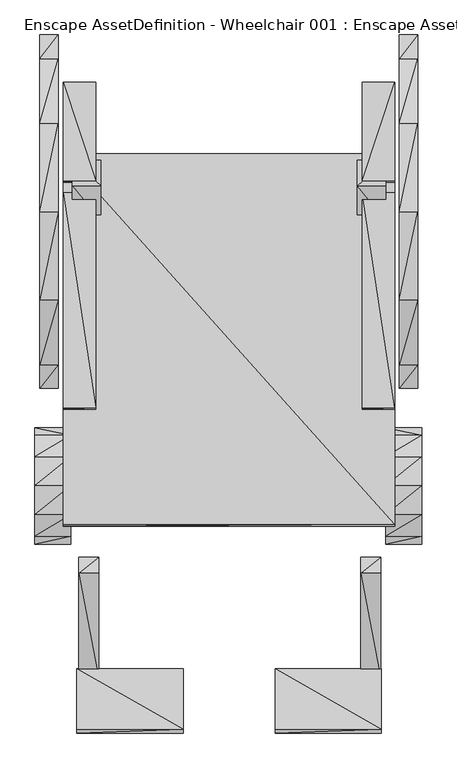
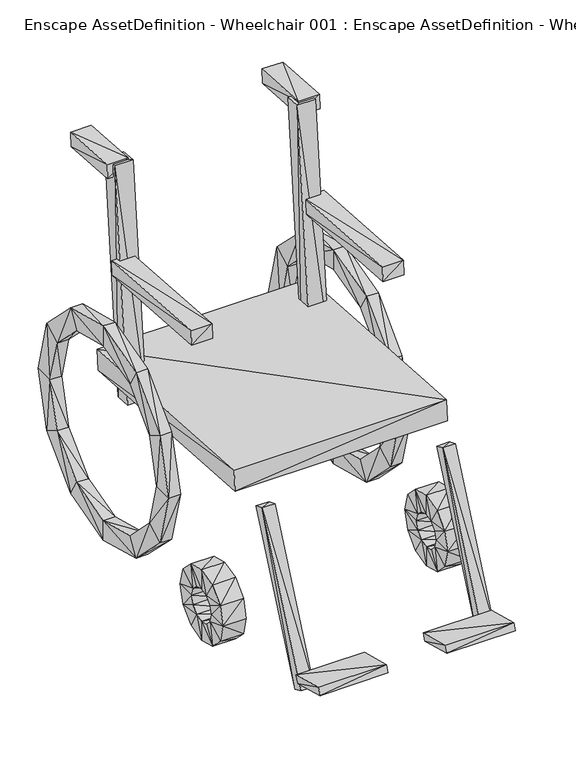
"""IFC4 building model written with IfcOpenShell, lengths in millimetres: geographic element geometry, Enscape AssetDefinition - Wheelchair 001 : Enscape AssetDefinition - Wheelchair 001."""

from ifc_helpers import new_model, si_unit, origin, place, context, project, spatial, faceted_brep, source, transform, mapped, element, save


def enscape_assetdefinition_wheelchair_001_enscape_12e7553c(model_context):
    return source(origin(), model_context, "Body", "Brep", [
        faceted_brep([(264.4009888, 292.7539945, 905.6119919), (264.4009888, 450.1889944, 894.8299885), (264.4009888, 295.2480018, 942.0239925), (212.5210017, 450.1889944, 894.8299885), (212.5210017, 452.6819885, 931.2430024), (264.4009888, 452.6819885, 931.2430024), (212.5210017, 292.7539945, 905.6119919), (212.5210017, 295.2480018, 942.0239925)], [[[0, 1, 2]], [[3, 4, 1]], [[1, 0, 3]], [[2, 1, 5]], [[1, 4, 5]], [[0, 2, 6]], [[5, 7, 2]], [[6, 2, 7]], [[3, 0, 6]], [[4, 3, 7]], [[7, 3, 6]], [[4, 7, 5]]]),
        faceted_brep([(-212.5210017, 292.7539945, 905.6119919), (-212.5210017, 295.2480018, 942.0239925), (-264.4009888, 292.7539945, 905.6119919), (-264.4009888, 295.2480018, 942.0239925), (-264.4009888, 452.6819885, 931.2430024), (-212.5210017, 452.6819885, 931.2430024), (-212.5210017, 450.1889944, 894.8299885), (-264.4009888, 450.1889944, 894.8299885)], [[[0, 1, 2]], [[3, 1, 4]], [[5, 1, 6]], [[2, 1, 3]], [[4, 1, 5]], [[6, 1, 0]], [[2, 3, 7]], [[0, 2, 6]], [[6, 2, 7]], [[7, 3, 4]], [[7, 4, 6]], [[6, 4, 5]]]),
        faceted_brep([(-272.6869881, 245.8550036, 560.3010058), (-272.6869881, 386.8780136, 522.5139856), (-302.1300137, 245.8550036, 560.3010058), (-272.6869881, 490.1149869, 419.2770123), (-302.1300137, 386.8780136, 522.5139856), (-272.6869881, 361.1710072, 477.9869914), (-272.6869881, 445.5879927, 393.5700059), (-272.6869881, 527.9020071, 278.2540023), (-302.1300137, 490.1149869, 419.2770123), (-272.6869881, 476.4870107, 278.2540023), (-302.1300137, 445.5879927, 393.5700059), (-302.1300137, 361.1710072, 477.9869914), (-302.1300137, 476.4870107, 278.2540023), (-272.6869881, 445.5879927, 162.9389971), (-272.6869881, 490.1149869, 137.2310072), (-302.1300137, 527.9020071, 278.2540023), (-272.6869881, 386.8780136, 33.9949988), (-302.1300137, 490.1149869, 137.2310072), (-302.1300137, 445.5879927, 162.9389971), (-272.6869881, 361.1710072, 78.5219967), (-272.6869881, 245.8550036, -3.792), (-302.1300137, 386.8780136, 33.9949988), (-272.6869881, 245.8550036, 47.623001), (-302.1300137, 245.8550036, 508.8859797), (-272.6869881, 245.8550036, 508.8859797), (-302.1300137, 130.539, 477.9869914), (-302.1300137, 104.832001, 522.5139856), (-272.6869881, 130.539, 477.9869914), (-302.1300137, 46.1219996, 393.5700059), (-272.6869881, 104.832001, 522.5139856), (-302.1300137, 1.596, 419.2779958), (-272.6869881, 46.1219996, 393.5700059), (-302.1300137, 15.2240004, 278.2540023), (-272.6869881, 1.596, 419.2779958), (-302.1300137, -36.1910015, 278.2540023), (-272.6869881, 15.2240004, 278.2540023), (-302.1300137, 46.1219996, 162.9379988), (-272.6869881, -36.1910015, 278.2540023), (-302.1300137, 1.596, 137.2310072), (-272.6869881, 46.1219996, 162.9379988), (-302.1300137, 130.5399984, 78.5209984), (-302.1300137, 104.832001, 33.9949988), (-272.6869881, 1.596, 137.2310072), (-272.6869881, 104.832001, 33.9949988), (-302.1300137, 245.8550036, -3.792), (-302.1300137, 245.8550036, 47.623001), (-272.6869881, 130.5399984, 78.5209984), (-302.1300137, 361.1710072, 78.5219967)], [[[0, 1, 2]], [[1, 3, 4]], [[1, 0, 5]], [[3, 1, 6]], [[2, 1, 4]], [[6, 1, 5]], [[3, 7, 8]], [[7, 3, 9]], [[4, 3, 8]], [[9, 3, 6]], [[6, 10, 9]], [[5, 11, 6]], [[6, 11, 10]], [[9, 12, 13]], [[13, 14, 9]], [[9, 10, 12]], [[9, 14, 7]], [[7, 14, 15]], [[8, 7, 15]], [[14, 16, 17]], [[15, 14, 17]], [[13, 16, 14]], [[13, 18, 19]], [[19, 16, 13]], [[13, 12, 18]], [[16, 20, 21]], [[20, 16, 22]], [[17, 16, 21]], [[22, 16, 19]], [[15, 17, 12]], [[17, 21, 18]], [[12, 17, 18]], [[12, 8, 15]], [[10, 8, 12]], [[10, 4, 8]], [[11, 4, 10]], [[2, 4, 23]], [[23, 4, 11]], [[5, 23, 11]], [[24, 23, 5]], [[24, 25, 23]], [[25, 2, 23]], [[26, 2, 25]], [[26, 0, 2]], [[27, 25, 24]], [[28, 26, 25]], [[27, 28, 25]], [[24, 0, 27]], [[5, 0, 24]], [[29, 0, 26]], [[27, 0, 29]], [[30, 26, 28]], [[30, 29, 26]], [[31, 28, 27]], [[31, 32, 28]], [[32, 30, 28]], [[29, 33, 27]], [[27, 33, 31]], [[33, 29, 30]], [[34, 30, 32]], [[34, 33, 30]], [[35, 32, 31]], [[36, 34, 32]], [[35, 36, 32]], [[31, 33, 35]], [[37, 33, 34]], [[35, 33, 37]], [[38, 34, 36]], [[38, 37, 34]], [[39, 36, 35]], [[40, 41, 36]], [[39, 40, 36]], [[36, 41, 38]], [[37, 42, 35]], [[35, 42, 39]], [[42, 37, 38]], [[41, 42, 38]], [[43, 42, 41]], [[44, 41, 45]], [[44, 43, 41]], [[45, 41, 40]], [[46, 40, 39]], [[46, 45, 40]], [[42, 43, 39]], [[39, 43, 46]], [[20, 43, 44]], [[46, 43, 22]], [[22, 43, 20]], [[21, 44, 47]], [[21, 20, 44]], [[47, 44, 45]], [[22, 45, 46]], [[22, 47, 45]], [[19, 47, 22]], [[18, 21, 47]], [[19, 18, 47]]]),
        faceted_brep([(264.4009888, 334.6050084, 376.4509857), (264.4009888, 338.2590115, 429.8210144), (264.4009888, -256.6919923, 416.9430137), (264.4009888, -253.0370057, 470.3119993), (-264.4009888, 338.2590115, 429.8210144), (-264.4009888, -256.6919923, 416.9430137), (-264.4009888, 334.6050084, 376.4509857), (-264.4009888, -253.0370057, 470.3119993)], [[[0, 1, 2]], [[2, 1, 3]], [[0, 4, 1]], [[4, 3, 1]], [[2, 3, 5]], [[2, 5, 0]], [[6, 4, 0]], [[0, 5, 6]], [[7, 3, 4]], [[6, 7, 4]], [[5, 3, 7]], [[5, 7, 6]]]),
        faceted_brep([(-250.4250109, 231.2439978, 342.7650034), (-204.509005, 231.2439978, 342.7650034), (-250.4250109, 287.4619961, 938.372016), (-204.509005, 271.2379992, 340.0259912), (-250.4250109, 271.2379992, 340.0259912), (-204.509005, 287.4619961, 938.372016), (-250.4250109, 327.4570107, 935.6330037), (-204.509005, 327.4570107, 935.6330037)], [[[0, 1, 2]], [[3, 1, 4]], [[2, 1, 5]], [[4, 1, 0]], [[3, 5, 1]], [[6, 4, 2]], [[5, 6, 2]], [[2, 4, 0]], [[3, 4, 7]], [[7, 4, 6]], [[7, 5, 3]], [[7, 6, 5]]]),
        faceted_brep([(250.4250109, 327.4570107, 935.6330037), (250.4250109, 271.2379992, 340.0259912), (204.509005, 327.4570107, 935.6330037), (204.509005, 271.2379992, 340.0259912), (204.509005, 231.2439978, 342.7650034), (250.4250109, 231.2439978, 342.7650034), (250.4250109, 287.4619961, 938.372016), (204.509005, 287.4619961, 938.372016)], [[[0, 1, 2]], [[3, 1, 4]], [[5, 1, 6]], [[2, 1, 3]], [[4, 1, 5]], [[6, 1, 0]], [[2, 7, 0]], [[3, 7, 2]], [[0, 7, 6]], [[7, 5, 6]], [[4, 5, 7]], [[4, 7, 3]]]),
        faceted_brep([(-252.4810135, -145.4450041, 174.5049953), (-252.4810135, -111.4019975, 140.4619962), (-309.9949956, -145.4450041, 174.5049953), (-252.4810135, -98.9419967, 93.9579979), (-309.9949956, -98.9419967, 93.9579979), (-252.4810135, -154.8939943, 115.3519973), (-309.9949956, -111.4019975, 140.4619962), (-252.4810135, -111.4019975, 47.4539995), (-252.4810135, -149.1609961, 93.9579979), (-252.4810135, -154.8939943, 72.5639984), (-252.4810135, -145.4450041, 13.4110004), (-309.9949956, -111.4019975, 47.4539995), (-252.4810135, -170.5549955, 56.9030009), (-309.9949956, -149.1609961, 93.9579979), (-309.9949956, -154.8939943, 72.5639984), (-309.9949956, -154.8939943, 115.3519973), (-309.9949956, -170.5549955, 56.9030009), (-309.9949956, -145.4450041, 13.4110004), (-252.4810135, -191.948995, 51.1699989), (-309.9949956, -191.948995, 0.95), (-309.9949956, -191.948995, 51.1699989), (-252.4810135, -191.948995, 0.95), (-252.4810135, -238.4530008, 13.4110004), (-309.9949956, -238.4530008, 13.4110004), (-252.4810135, -213.3429945, 56.9030009), (-309.9949956, -213.3429945, 56.9030009), (-309.9949956, -272.4960148, 47.4539995), (-309.9949956, -229.0039957, 72.5639984), (-252.4810135, -229.0039957, 72.5639984), (-252.4810135, -234.7369939, 93.9579979), (-309.9949956, -234.7369939, 93.9579979), (-252.4810135, -284.9569917, 93.9579979), (-252.4810135, -272.4960148, 47.4539995), (-309.9949956, -284.9569917, 93.9579979), (-252.4810135, -272.4960148, 140.4619962), (-252.4810135, -229.0039957, 115.3519973), (-252.4810135, -238.4530008, 174.5049953), (-309.9949956, -272.4960148, 140.4619962), (-252.4810135, -213.3429945, 131.013006), (-309.9949956, -229.0039957, 115.3519973), (-309.9949956, -213.3429945, 131.013006), (-309.9949956, -238.4530008, 174.5049953), (-252.4810135, -191.948995, 186.9650036), (-309.9949956, -191.948995, 186.9650036), (-252.4810135, -191.948995, 136.7460042), (-309.9949956, -191.948995, 136.7460042), (-252.4810135, -170.5549955, 131.013006), (-309.9949956, -170.5549955, 131.013006)], [[[0, 1, 2]], [[3, 4, 1]], [[1, 0, 5]], [[2, 1, 6]], [[1, 4, 6]], [[5, 3, 1]], [[3, 7, 4]], [[8, 3, 5]], [[7, 3, 9]], [[9, 3, 8]], [[7, 10, 11]], [[10, 7, 12]], [[4, 7, 11]], [[12, 7, 9]], [[8, 13, 9]], [[9, 14, 12]], [[9, 13, 14]], [[5, 15, 8]], [[8, 15, 13]], [[4, 11, 13]], [[15, 4, 13]], [[13, 11, 14]], [[14, 11, 16]], [[11, 10, 17]], [[16, 11, 17]], [[12, 14, 16]], [[12, 16, 18]], [[18, 10, 12]], [[17, 19, 16]], [[16, 19, 20]], [[18, 16, 20]], [[10, 21, 17]], [[17, 21, 19]], [[21, 22, 19]], [[19, 23, 20]], [[19, 22, 23]], [[18, 20, 24]], [[24, 20, 25]], [[20, 23, 25]], [[23, 22, 26]], [[25, 23, 27]], [[27, 23, 26]], [[24, 25, 28]], [[28, 25, 27]], [[24, 22, 18]], [[28, 22, 24]], [[29, 28, 30]], [[29, 31, 28]], [[32, 22, 28]], [[30, 28, 27]], [[28, 31, 32]], [[26, 33, 27]], [[27, 33, 30]], [[26, 32, 33]], [[26, 22, 32]], [[33, 32, 31]], [[31, 34, 33]], [[29, 34, 31]], [[29, 30, 35]], [[35, 34, 29]], [[34, 36, 37]], [[36, 34, 38]], [[38, 34, 35]], [[33, 34, 37]], [[33, 37, 30]], [[39, 37, 40]], [[37, 36, 41]], [[40, 37, 41]], [[30, 37, 39]], [[36, 42, 41]], [[38, 42, 36]], [[41, 43, 40]], [[41, 42, 43]], [[42, 0, 43]], [[44, 42, 38]], [[44, 0, 42]], [[43, 2, 45]], [[43, 0, 2]], [[40, 43, 45]], [[46, 0, 44]], [[5, 0, 46]], [[38, 40, 44]], [[44, 45, 46]], [[44, 40, 45]], [[46, 45, 47]], [[45, 2, 47]], [[47, 2, 15]], [[15, 2, 6]], [[46, 47, 5]], [[5, 47, 15]], [[6, 4, 15]], [[38, 39, 40]], [[35, 39, 38]], [[35, 30, 39]], [[18, 22, 21]], [[21, 10, 18]]]),
        faceted_brep([(307.5189888, -145.4450041, 174.5049953), (307.5189888, -111.4019975, 140.4619962), (250.0050068, -145.4450041, 174.5049953), (307.5189888, -98.9419967, 93.9579979), (250.0050068, -98.9419967, 93.9579979), (307.5189888, -154.8939943, 115.3519973), (250.0050068, -111.4019975, 140.4619962), (307.5189888, -111.4019975, 47.4539995), (307.5189888, -149.1609961, 93.9579979), (307.5189888, -154.8939943, 72.5639984), (307.5189888, -145.4450041, 13.4110004), (250.0050068, -111.4019975, 47.4539995), (307.5189888, -170.5549955, 56.9030009), (250.0050068, -149.1609961, 93.9579979), (250.0050068, -154.8939943, 72.5639984), (250.0050068, -154.8939943, 115.3519973), (250.0050068, -170.5549955, 56.9030009), (250.0050068, -145.4450041, 13.4110004), (250.0050068, -191.948995, 0.95), (307.5189888, -191.948995, 51.1699989), (250.0050068, -191.948995, 51.1699989), (307.5189888, -191.948995, 0.95), (307.5189888, -213.3429945, 56.9030009), (307.5189888, -238.4530008, 13.4110004), (250.0050068, -238.4530008, 13.4110004), (250.0050068, -213.3429945, 56.9030009), (307.5189888, -229.0039957, 72.5639984), (250.0050068, -229.0039957, 72.5639984), (250.0050068, -272.4960148, 47.4539995), (250.0050068, -284.9569917, 93.9579979), (307.5189888, -234.7369939, 93.9579979), (250.0050068, -234.7369939, 93.9579979), (307.5189888, -284.9569917, 93.9579979), (307.5189888, -272.4960148, 47.4539995), (307.5189888, -229.0039957, 115.3519973), (307.5189888, -272.4960148, 140.4619962), (250.0050068, -272.4960148, 140.4619962), (250.0050068, -229.0039957, 115.3519973), (307.5189888, -213.3429945, 131.013006), (307.5189888, -238.4530008, 174.5049953), (250.0050068, -213.3429945, 131.013006), (250.0050068, -238.4530008, 174.5049953), (307.5189888, -191.948995, 136.7460042), (250.0050068, -191.948995, 186.9650036), (250.0050068, -191.948995, 136.7460042), (307.5189888, -191.948995, 186.9650036), (307.5189888, -170.5549955, 131.013006), (250.0050068, -170.5549955, 131.013006)], [[[0, 1, 2]], [[3, 4, 1]], [[1, 0, 5]], [[2, 1, 6]], [[1, 4, 6]], [[5, 3, 1]], [[3, 7, 4]], [[8, 3, 5]], [[7, 3, 9]], [[9, 3, 8]], [[7, 10, 11]], [[10, 7, 12]], [[4, 7, 11]], [[12, 7, 9]], [[8, 13, 9]], [[9, 14, 12]], [[9, 13, 14]], [[5, 15, 8]], [[8, 15, 13]], [[13, 4, 14]], [[15, 4, 13]], [[14, 11, 16]], [[14, 4, 11]], [[12, 14, 16]], [[11, 10, 17]], [[16, 11, 17]], [[17, 18, 16]], [[12, 16, 19]], [[16, 18, 20]], [[19, 16, 20]], [[19, 10, 12]], [[21, 10, 19]], [[22, 23, 19]], [[19, 20, 22]], [[19, 23, 21]], [[18, 24, 20]], [[22, 20, 25]], [[20, 24, 25]], [[26, 22, 27]], [[27, 22, 25]], [[26, 23, 22]], [[25, 24, 27]], [[24, 23, 28]], [[18, 23, 24]], [[27, 24, 28]], [[28, 29, 27]], [[26, 27, 30]], [[27, 29, 31]], [[30, 27, 31]], [[30, 32, 26]], [[33, 23, 26]], [[26, 32, 33]], [[30, 31, 34]], [[34, 35, 30]], [[30, 35, 32]], [[29, 36, 31]], [[34, 31, 37]], [[31, 36, 37]], [[34, 37, 38]], [[38, 35, 34]], [[35, 39, 36]], [[39, 35, 38]], [[32, 35, 29]], [[29, 35, 36]], [[29, 33, 32]], [[28, 33, 29]], [[28, 23, 33]], [[21, 23, 18]], [[17, 21, 18]], [[10, 21, 17]], [[37, 36, 40]], [[36, 39, 41]], [[40, 36, 41]], [[38, 40, 42]], [[41, 43, 40]], [[42, 40, 44]], [[38, 37, 40]], [[40, 43, 44]], [[39, 45, 41]], [[41, 45, 43]], [[45, 0, 43]], [[43, 2, 44]], [[43, 0, 2]], [[42, 45, 38]], [[38, 45, 39]], [[42, 0, 45]], [[46, 0, 42]], [[5, 0, 46]], [[46, 47, 5]], [[42, 44, 46]], [[46, 44, 47]], [[44, 2, 47]], [[47, 2, 15]], [[15, 2, 6]], [[5, 47, 15]], [[6, 4, 15]]]),
        faceted_brep([(301.304996, 245.8550036, 560.3010058), (301.304996, 386.8780136, 522.5139856), (271.8609869, 245.8550036, 560.3010058), (301.304996, 490.1149869, 419.2770123), (271.8609869, 386.8780136, 522.5139856), (301.304996, 361.1710072, 477.9869914), (301.304996, 245.8550036, 508.8859797), (301.304996, 445.5879927, 393.5700059), (301.304996, 104.832001, 522.5139856), (271.8609869, 104.832001, 522.5139856), (271.8609869, 1.596, 419.2779958), (271.8609869, 46.1219996, 393.5700059), (271.8609869, 130.539, 477.9869914), (301.304996, 1.596, 419.2779958), (301.304996, 130.539, 477.9869914), (271.8609869, -36.1910015, 278.2540023), (271.8609869, 15.2240004, 278.2540023), (301.304996, -36.1910015, 278.2540023), (301.304996, 46.1219996, 393.5700059), (301.304996, 15.2240004, 278.2540023), (271.8609869, 46.1219996, 162.9379988), (271.8609869, 1.596, 137.2310072), (301.304996, 1.596, 137.2310072), (301.304996, 46.1219996, 162.9379988), (271.8609869, 130.5399984, 78.5209984), (271.8609869, 104.832001, 33.9949988), (301.304996, 104.832001, 33.9949988), (301.304996, 130.5399984, 78.5209984), (271.8609869, 245.8550036, 47.623001), (271.8609869, 245.8550036, -3.792), (301.304996, 245.8550036, -3.792), (301.304996, 245.8550036, 47.623001), (271.8609869, 361.1710072, 78.5219967), (271.8609869, 386.8780136, 33.9949988), (301.304996, 386.8780136, 33.9949988), (301.304996, 361.1710072, 78.5219967), (271.8609869, 445.5879927, 162.9389971), (271.8609869, 490.1149869, 137.2310072), (301.304996, 490.1149869, 137.2310072), (301.304996, 445.5879927, 162.9389971), (271.8609869, 476.4870107, 278.2540023), (271.8609869, 527.9020071, 278.2540023), (301.304996, 527.9020071, 278.2540023), (301.304996, 476.4870107, 278.2540023), (271.8609869, 445.5879927, 393.5700059), (271.8609869, 490.1149869, 419.2770123), (271.8609869, 361.1710072, 477.9869914), (271.8609869, 245.8550036, 508.8859797)], [[[0, 1, 2]], [[1, 3, 4]], [[5, 1, 6]], [[3, 1, 7]], [[2, 1, 4]], [[6, 1, 0]], [[7, 1, 5]], [[8, 0, 9]], [[0, 8, 6]], [[9, 0, 2]], [[10, 9, 11]], [[9, 2, 12]], [[10, 8, 9]], [[11, 9, 12]], [[13, 8, 10]], [[8, 13, 14]], [[6, 8, 14]], [[15, 10, 16]], [[15, 13, 10]], [[16, 10, 11]], [[17, 13, 15]], [[18, 13, 19]], [[14, 13, 18]], [[19, 13, 17]], [[14, 12, 6]], [[18, 11, 14]], [[14, 11, 12]], [[19, 16, 18]], [[18, 16, 11]], [[20, 15, 16]], [[19, 20, 16]], [[21, 15, 20]], [[21, 17, 15]], [[22, 17, 21]], [[17, 22, 19]], [[23, 20, 19]], [[19, 22, 23]], [[24, 25, 20]], [[23, 24, 20]], [[20, 25, 21]], [[25, 22, 21]], [[26, 22, 25]], [[22, 26, 23]], [[27, 24, 23]], [[23, 26, 27]], [[27, 28, 24]], [[28, 25, 24]], [[29, 25, 28]], [[29, 26, 25]], [[30, 26, 29]], [[27, 26, 31]], [[31, 26, 30]], [[31, 28, 27]], [[32, 29, 28]], [[31, 32, 28]], [[33, 29, 32]], [[33, 30, 29]], [[34, 30, 33]], [[30, 34, 31]], [[35, 32, 31]], [[31, 34, 35]], [[36, 33, 32]], [[35, 36, 32]], [[37, 33, 36]], [[37, 34, 33]], [[38, 34, 37]], [[34, 38, 35]], [[39, 36, 35]], [[35, 38, 39]], [[40, 37, 36]], [[39, 40, 36]], [[41, 37, 40]], [[41, 38, 37]], [[42, 38, 41]], [[39, 38, 43]], [[43, 38, 42]], [[43, 40, 39]], [[44, 45, 40]], [[40, 45, 41]], [[43, 44, 40]], [[45, 42, 41]], [[3, 42, 45]], [[42, 3, 43]], [[7, 44, 43]], [[43, 3, 7]], [[46, 4, 44]], [[7, 46, 44]], [[44, 4, 45]], [[4, 3, 45]], [[46, 2, 4]], [[5, 46, 7]], [[47, 2, 46]], [[5, 47, 46]], [[12, 2, 47]], [[6, 47, 5]], [[6, 12, 47]]]),
        faceted_brep([(264.4009888, 273.5399902, 664.3339992), (264.4009888, 276.0330141, 700.7470131), (264.4009888, -69.7569996, 687.8430247), (264.4009888, -67.2639981, 724.2559791), (212.5210017, 276.0330141, 700.7470131), (212.5210017, -69.7569996, 687.8430247), (212.5210017, 273.5399902, 664.3339992), (212.5210017, -67.2639981, 724.2559791)], [[[0, 1, 2]], [[2, 1, 3]], [[0, 4, 1]], [[4, 3, 1]], [[2, 5, 0]], [[2, 3, 5]], [[6, 4, 0]], [[0, 5, 6]], [[7, 3, 4]], [[4, 6, 7]], [[5, 3, 7]], [[7, 6, 5]]]),
        faceted_brep([(-212.5210017, -69.7569996, 687.8430247), (-212.5210017, -67.2639981, 724.2559791), (-264.4009888, -69.7569996, 687.8430247), (-264.4009888, -67.2639981, 724.2559791), (-264.4009888, 276.0330141, 700.7470131), (-212.5210017, 276.0330141, 700.7470131), (-212.5210017, 273.5399902, 664.3339992), (-264.4009888, 273.5399902, 664.3339992)], [[[0, 1, 2]], [[3, 1, 4]], [[5, 1, 6]], [[2, 1, 3]], [[4, 1, 5]], [[6, 1, 0]], [[2, 3, 7]], [[0, 2, 6]], [[6, 2, 7]], [[7, 3, 4]], [[7, 4, 6]], [[6, 4, 5]]]),
        faceted_brep([(243.3169931, -586.6609812, 71.7519969), (243.3169931, -491.9129908, 45.6719995), (243.3169931, -580.6760192, 89.7049978), (73.4049976, -491.9129908, 45.6719995), (73.4049976, -484.1189981, 64.2279983), (73.4049976, -586.6609812, 71.7519969), (243.3169931, -484.1189981, 64.2279983), (73.4049976, -580.6760192, 89.7049978)], [[[0, 1, 2]], [[3, 4, 1]], [[0, 5, 1]], [[2, 1, 6]], [[1, 4, 6]], [[1, 5, 3]], [[0, 2, 5]], [[7, 2, 4]], [[4, 2, 6]], [[5, 2, 7]], [[4, 3, 7]], [[7, 3, 5]]]),
        faceted_brep([(-73.4049976, -586.6609812, 71.7519969), (-73.4049976, -580.6760192, 89.7049978), (-243.3169931, -586.6609812, 71.7519969), (-243.3169931, -580.6760192, 89.7049978), (-243.3169931, -484.1189981, 64.2279983), (-73.4049976, -484.1189981, 64.2279983), (-73.4049976, -491.9129908, 45.6719995), (-243.3169931, -491.9129908, 45.6719995)], [[[0, 1, 2]], [[3, 1, 4]], [[5, 1, 6]], [[2, 1, 3]], [[4, 1, 5]], [[6, 1, 0]], [[2, 3, 7]], [[0, 2, 6]], [[6, 2, 7]], [[7, 3, 4]], [[7, 4, 6]], [[6, 4, 5]]]),
        faceted_brep([(-240.1449978, -499.9450147, 30.1520005), (-208.2590014, -499.9450147, 30.1520005), (-240.1449978, -331.8740129, 410.0939929), (-208.2590014, -474.2049873, 19.5489991), (-240.1449978, -474.2049873, 19.5489991), (-208.2590014, -331.8740129, 410.0939929), (-240.1449978, -306.133002, 399.4899988), (-208.2590014, -306.133002, 399.4899988)], [[[0, 1, 2]], [[3, 1, 4]], [[2, 1, 5]], [[4, 1, 0]], [[3, 5, 1]], [[2, 4, 0]], [[6, 2, 7]], [[6, 4, 2]], [[7, 2, 5]], [[3, 4, 7]], [[7, 4, 6]], [[7, 5, 3]]]),
        faceted_brep([(210.0979984, -499.9450147, 30.1520005), (241.9839948, -499.9450147, 30.1520005), (210.0979984, -331.8740129, 410.0939929), (241.9839948, -474.2049873, 19.5489991), (210.0979984, -474.2049873, 19.5489991), (241.9839948, -331.8740129, 410.0939929), (210.0979984, -306.133002, 399.4899988), (241.9839948, -306.133002, 399.4899988)], [[[0, 1, 2]], [[3, 1, 4]], [[2, 1, 5]], [[4, 1, 0]], [[3, 5, 1]], [[2, 4, 0]], [[6, 2, 7]], [[6, 4, 2]], [[7, 2, 5]], [[3, 4, 7]], [[7, 4, 6]], [[7, 5, 3]]]),
    ])


if __name__ == "__main__":
    model = new_model("IFC4")
    model_context = context("Model", 3, world=origin())
    ifc_project = project(units=[si_unit("LENGTHUNIT", "METRE", prefix="MILLI")], contexts=[model_context])
    site = spatial("IfcSite", under=ifc_project)
    building = spatial("IfcBuilding", under=site)
    placement = place(None, origin())
    enscape_assetdefinition_wheelchair_001_enscape_shape = enscape_assetdefinition_wheelchair_001_enscape_12e7553c(model_context)
    element("IfcGeographicElement", 1, ObjectType="Enscape AssetDefinition - Wheelchair 001 : Enscape AssetDefinition - Wheelchair 001", at=placement, inside=building, context=model_context, shape_type="MappedRepresentation", body=[
        mapped(enscape_assetdefinition_wheelchair_001_enscape_shape, transform((0.0, 0.0, 0.0), x_axis=(1.0, 0.0, 0.0), y_axis=(0.0, 1.0, 0.0), z_axis=(0.0, 0.0, 1.0))),
    ])
    save(model, "model.ifc")
